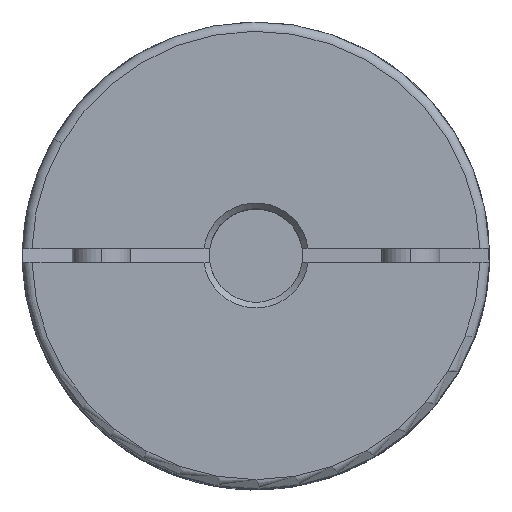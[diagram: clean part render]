
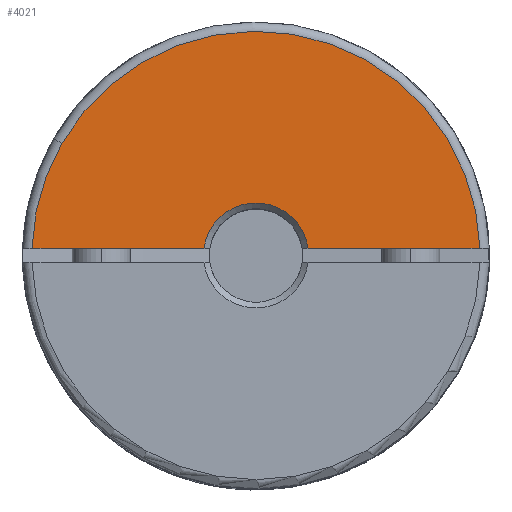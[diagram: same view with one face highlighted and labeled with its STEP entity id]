
A CAD part, top view. The second image highlights one B-rep face of the part: STEP entity #4021.
In plain terms, the highlighted planar face has unit normal (0, 0, 1).
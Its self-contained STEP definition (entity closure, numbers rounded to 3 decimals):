
#3008 = DIRECTION ( 'NONE',  ( 0., 1., 0. ) ) ;
#3009 = DIRECTION ( 'NONE',  ( -0.866, 0.5, 0. ) ) ;
#3010 = DIRECTION ( 'NONE',  ( 0., 0., -1. ) ) ;
#3011 = DIRECTION ( 'NONE',  ( 0., 0., 1. ) ) ;
#3012 = CARTESIAN_POINT ( 'NONE',  ( 0., 0., 27.5 ) ) ;
#3013 = DIRECTION ( 'NONE',  ( 1., 0., 0. ) ) ;
#3014 = CARTESIAN_POINT ( 'NONE',  ( 0., 0.6, 27.5 ) ) ;
#3015 = CARTESIAN_POINT ( 'NONE',  ( 0., 0., 27.5 ) ) ;
#3019 = DIRECTION ( 'NONE',  ( 1., 0., 0. ) ) ;
#3020 = CARTESIAN_POINT ( 'NONE',  ( 0., 0.6, 27.5 ) ) ;
#4021 = ADVANCED_FACE ( 'NONE', ( #11290 ), #12042, .F. ) ;
#4304 = DIRECTION ( 'NONE',  ( -0.866, 0.5, 0. ) ) ;
#4312 = DIRECTION ( 'NONE',  ( 0., 0., 1. ) ) ;
#4314 = CARTESIAN_POINT ( 'NONE',  ( 0., 0., 27.5 ) ) ;
#4860 = EDGE_LOOP ( 'NONE', ( #9691, #9540, #9689, #9519, #10056 ) ) ;
#5228 = EDGE_CURVE ( 'NONE', #12636, #12596, #10256, .T. ) ;
#5616 = AXIS2_PLACEMENT_3D ( 'NONE', #12051, #12040, #12037 ) ;
#5885 = AXIS2_PLACEMENT_3D ( 'NONE', #4314, #4312, #4304 ) ;
#7552 = CARTESIAN_POINT ( 'NONE',  ( 4.46, 0.6, 27.5 ) ) ;
#7584 = CARTESIAN_POINT ( 'NONE',  ( 19.191, 0.6, 27.5 ) ) ;
#7853 = CARTESIAN_POINT ( 'NONE',  ( -19.191, 0.6, 27.5 ) ) ;
#7890 = CARTESIAN_POINT ( 'NONE',  ( -16.628, 9.6, 27.5 ) ) ;
#7942 = CARTESIAN_POINT ( 'NONE',  ( -4.46, 0.6, 27.5 ) ) ;
#7983 = EDGE_CURVE ( 'NONE', #9281, #12636, #10483, .T. ) ;
#7984 = EDGE_CURVE ( 'NONE', #9249, #9281, #10490, .T. ) ;
#7985 = EDGE_CURVE ( 'NONE', #12693, #9249, #10492, .T. ) ;
#7986 = EDGE_CURVE ( 'NONE', #12596, #12693, #10494, .T. ) ;
#8700 = AXIS2_PLACEMENT_3D ( 'NONE', #3012, #3011, #3009 ) ;
#8701 = AXIS2_PLACEMENT_3D ( 'NONE', #3015, #3010, #3008 ) ;
#9249 = VERTEX_POINT ( 'NONE', #7552 ) ;
#9281 = VERTEX_POINT ( 'NONE', #7584 ) ;
#9519 = ORIENTED_EDGE ( 'NONE', *, *, #7983, .T. ) ;
#9540 = ORIENTED_EDGE ( 'NONE', *, *, #7985, .T. ) ;
#9689 = ORIENTED_EDGE ( 'NONE', *, *, #7984, .T. ) ;
#9691 = ORIENTED_EDGE ( 'NONE', *, *, #7986, .T. ) ;
#10056 = ORIENTED_EDGE ( 'NONE', *, *, #5228, .T. ) ;
#10256 = CIRCLE ( 'NONE', #5885, 19.2 ) ;
#10483 = CIRCLE ( 'NONE', #8700, 19.2 ) ;
#10490 = LINE ( 'NONE', #3020, #10493 ) ;
#10492 = CIRCLE ( 'NONE', #8701, 4.5 ) ;
#10493 = VECTOR ( 'NONE', #3019, 1000. ) ;
#10494 = LINE ( 'NONE', #3014, #10496 ) ;
#10496 = VECTOR ( 'NONE', #3013, 1000. ) ;
#11290 = FACE_OUTER_BOUND ( 'NONE', #4860, .T. ) ;
#12037 = DIRECTION ( 'NONE',  ( -0.866, 0.5, 0. ) ) ;
#12040 = DIRECTION ( 'NONE',  ( 0., 0., -1. ) ) ;
#12042 = PLANE ( 'NONE',  #5616 ) ;
#12051 = CARTESIAN_POINT ( 'NONE',  ( 0., 0., 27.5 ) ) ;
#12596 = VERTEX_POINT ( 'NONE', #7853 ) ;
#12636 = VERTEX_POINT ( 'NONE', #7890 ) ;
#12693 = VERTEX_POINT ( 'NONE', #7942 ) ;
